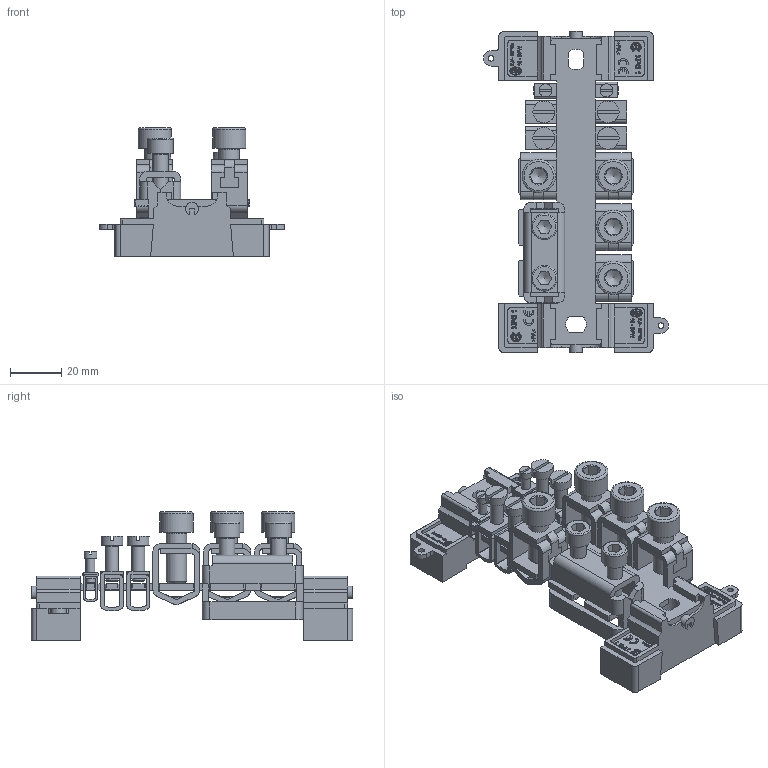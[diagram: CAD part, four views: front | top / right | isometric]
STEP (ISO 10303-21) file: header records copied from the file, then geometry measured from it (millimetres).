
FILE_DESCRIPTION(/* description */ ('Unknown'),/* implementation_level */ '2;1');
FILE_NAME(/* name */ 'EPS 1',/* time_stamp */ '2021-07-13T10:14:36+02:00',/* author */ ('Unknown'),/* organization */ ('Unknown'),/* preprocessor_version */ 'ST-DEVELOPER v16.7',/* originating_system */ 'Solid Edge',/* authorisation */ 'Unknown');
FILE_SCHEMA (('AUTOMOTIVE_DESIGN {1 0 10303 214 3 1 1}'));
Products named in the file (1): EPS 1
Bounding box: 72 x 125 x 50 mm (x, y, z)
Volume: 52915.8 mm3; surface area: 51538.5 mm2
Topology: 1 solids, 1 shells, 2042 faces, 5711 edges, 3741 vertices
Faces by surface type: plane 1486, cylinder 420, bspline 76, cone 42, torus 18
Full cylindrical faces by diameter (mm): 2.2 x2, 3.5 x8, 3.6 x2, 4.8 x4, 5 x14, 6 x4, 8 x14, 8.5 x4, 10 x2, 13 x4
Entity records: 82494 total; most frequent: CARTESIAN_POINT 16029, ORIENTED_EDGE 11108, DIRECTION 10170, EDGE_CURVE 5554, LINE 4392, VECTOR 4392, VERTEX_POINT 3696, AXIS2_PLACEMENT_3D 2889
